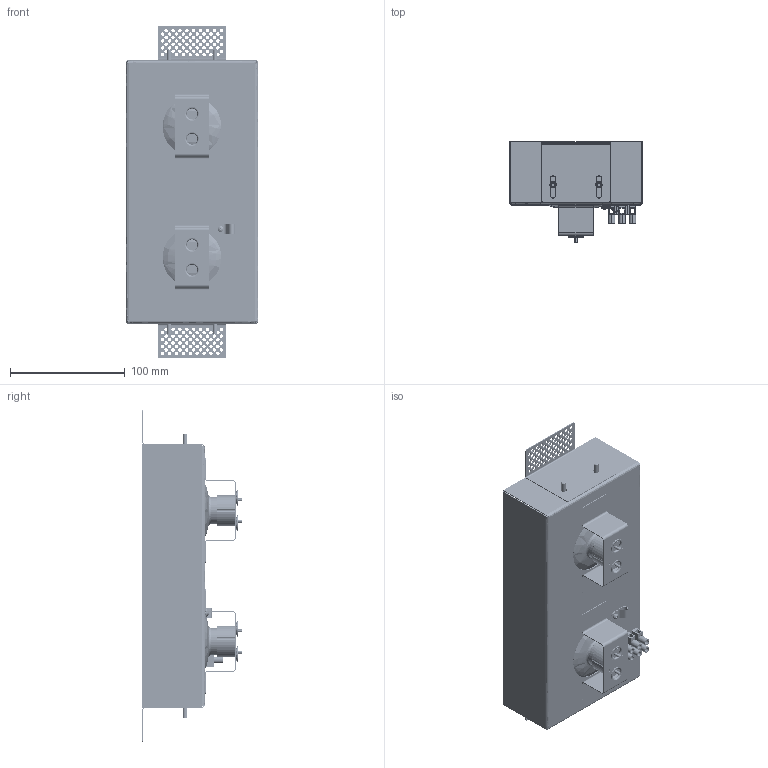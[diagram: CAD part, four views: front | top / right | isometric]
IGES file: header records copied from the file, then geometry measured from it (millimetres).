
Start section: SolidWorks IGES file using analytic representation for surfaces
Global section: file name: E:\3D lampy\Mod\Mod plus\Mod Plus_9403,9407.IGS; native system: SolidWorks 2017; preprocessor: SolidWorks 2017; author: Asia; date: 180302.103848; units: millimetre
Bounding box: 115 x 87.5 x 289 mm (x, y, z)
Surface area: 278655.1 mm2 (no closed solid volume)
Topology: 0 solids, 0 shells, 2142 faces, 29318 edges, 29286 vertices
Faces by surface type: bspline 1153, revolution 989
